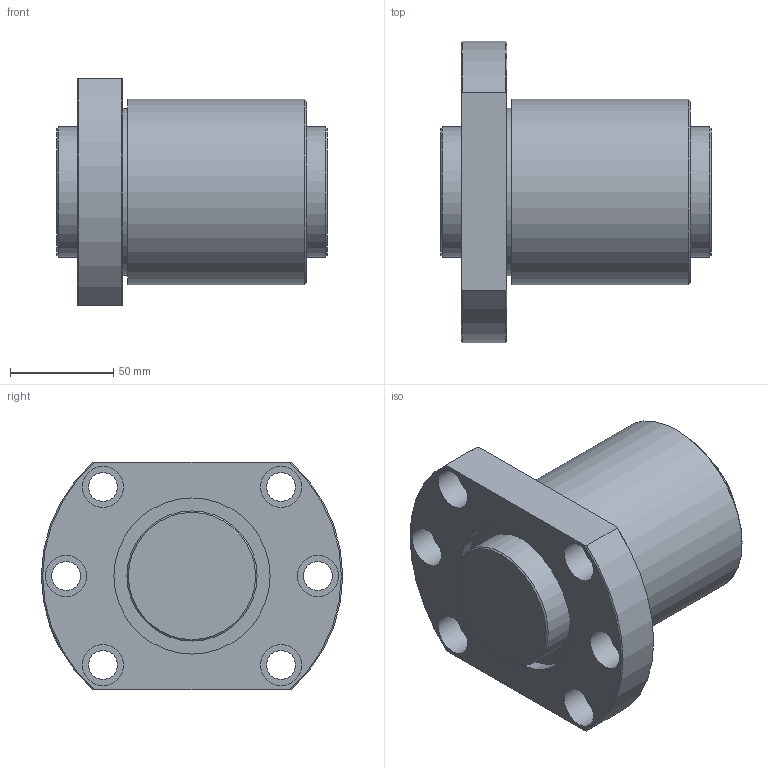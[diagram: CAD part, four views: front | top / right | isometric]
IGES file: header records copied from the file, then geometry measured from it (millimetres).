
Start section: Data from Parasolid IGES Translator 26.0.171, Copyright(c) 2006 Siemens PLM Software. All Rights Reserved.
Global section: file name: DK6312-4RRG1+131LC0_000.igs; native system: By Siemens PLM Incorporated; preprocessor: XPlus GENERIC/IGES 26.0.171; author: Noname; organization: Noname; date: 20250113.093219; units: millimetre
Bounding box: 131 x 146 x 110 mm (x, y, z)
Surface area: 120279.5 mm2 (no closed solid volume)
Topology: 0 solids, 0 shells, 46 faces, 190 edges, 166 vertices
Faces by surface type: revolution 30, extrusion 16
